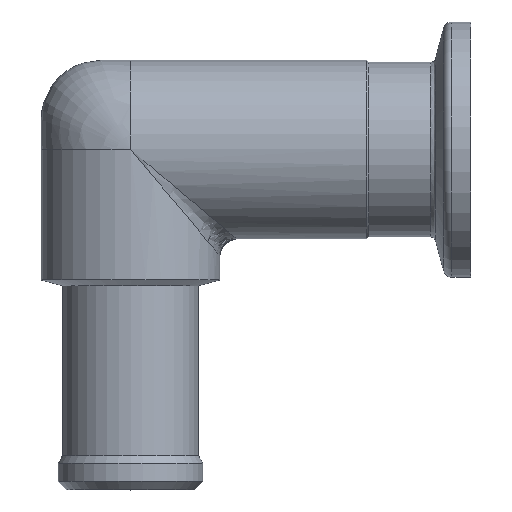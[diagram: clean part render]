
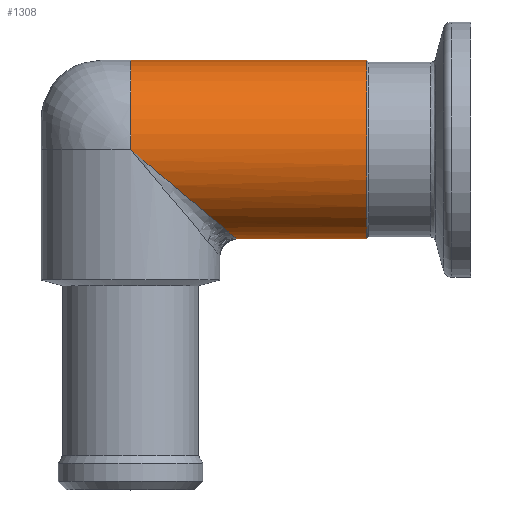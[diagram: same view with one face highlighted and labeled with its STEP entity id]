
A CAD part, top view. The second image highlights one B-rep face of the part: STEP entity #1308.
In plain terms, the highlighted cylindrical face has radius 10.5 mm (diameter 21 mm), a full revolution.
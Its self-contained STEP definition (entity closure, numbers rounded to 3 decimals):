
#724=CARTESIAN_POINT('',(27.75,-10.5,0.));
#725=VERTEX_POINT('',#724);
#726=CARTESIAN_POINT('',(27.75,0.,0.0));
#727=DIRECTION('',(-1.0,0.0,0.0));
#728=DIRECTION('',(0.0,1.0,0.0));
#729=AXIS2_PLACEMENT_3D('',#726,#727,#728);
#730=CIRCLE('',#729,10.5);
#731=EDGE_CURVE('',#725,#725,#730,.T.);
#972=CARTESIAN_POINT('',(0.,0.,10.5));
#973=VERTEX_POINT('',#972);
#974=CARTESIAN_POINT('',(0.,0.,-10.5));
#975=VERTEX_POINT('',#974);
#983=CARTESIAN_POINT('',(0.,0.0,0.0));
#984=DIRECTION('',(-0.643,-0.766,0.));
#985=DIRECTION('',(0.766,-0.643,0.0));
#986=AXIS2_PLACEMENT_3D('',#983,#984,#985);
#987=ELLIPSE('',#986,16.325,10.5);
#988=EDGE_CURVE('',#975,#973,#987,.T.);
#1274=CARTESIAN_POINT('',(0.,10.5,0.));
#1275=VERTEX_POINT('',#1274);
#1276=CARTESIAN_POINT('',(0.,0.,0.0));
#1277=DIRECTION('',(1.0,0.0,0.0));
#1278=DIRECTION('',(0.0,1.0,0.0));
#1279=AXIS2_PLACEMENT_3D('',#1276,#1277,#1278);
#1280=CIRCLE('',#1279,10.5);
#1281=EDGE_CURVE('',#1275,#973,#1280,.T.);
#1283=CARTESIAN_POINT('',(0.,0.,0.0));
#1284=DIRECTION('',(1.0,0.0,0.0));
#1285=DIRECTION('',(0.0,1.0,0.0));
#1286=AXIS2_PLACEMENT_3D('',#1283,#1284,#1285);
#1287=CIRCLE('',#1286,10.5);
#1288=EDGE_CURVE('',#975,#1275,#1287,.T.);
#1295=CARTESIAN_POINT('',(17.263,0.,0.0));
#1296=DIRECTION('',(1.0,0.,0.0));
#1297=DIRECTION('',(0.0,1.0,0.0));
#1298=AXIS2_PLACEMENT_3D('',#1295,#1296,#1297);
#1299=CYLINDRICAL_SURFACE('',#1298,10.5);
#1300=ORIENTED_EDGE('',*,*,#731,.T.);
#1301=EDGE_LOOP('',(#1300));
#1302=FACE_OUTER_BOUND('',#1301,.T.);
#1303=ORIENTED_EDGE('',*,*,#988,.F.);
#1304=ORIENTED_EDGE('',*,*,#1288,.T.);
#1305=ORIENTED_EDGE('',*,*,#1281,.T.);
#1306=EDGE_LOOP('',(#1303,#1304,#1305));
#1307=FACE_BOUND('',#1306,.T.);
#1308=ADVANCED_FACE('',(#1302,#1307),#1299,.T.);
